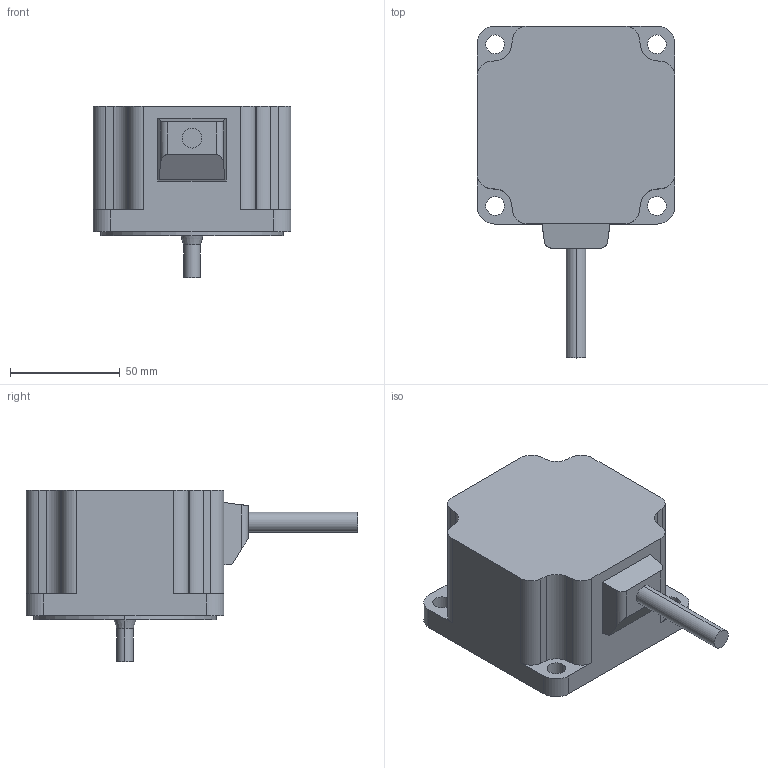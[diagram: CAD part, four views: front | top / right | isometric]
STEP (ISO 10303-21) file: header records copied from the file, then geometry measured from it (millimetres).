
FILE_DESCRIPTION (( 'STEP AP203' ), '1' );
FILE_NAME ('A1888-GF.step', '2024-04-24T05:50:53', ( '' ), ( '' ), 'SwSTEP 2.0', 'SolidWorks 2023', '' );
FILE_SCHEMA (( 'CONFIG_CONTROL_DESIGN' ));
Length unit declared in the file: millimetre
Products named in the file (1): A1888-GF
Bounding box: 90 x 151 x 78 mm (x, y, z)
Volume: 432576.7 mm3; surface area: 38511.5 mm2
Topology: 1 solids, 1 shells, 61 faces, 163 edges, 108 vertices
Faces by surface type: cylinder 32, plane 27, cone 2
Entity records: 2016 total; most frequent: DIRECTION 345, CARTESIAN_POINT 345, ORIENTED_EDGE 326, EDGE_CURVE 163, AXIS2_PLACEMENT_3D 124, VERTEX_POINT 108, LINE 97, VECTOR 97
